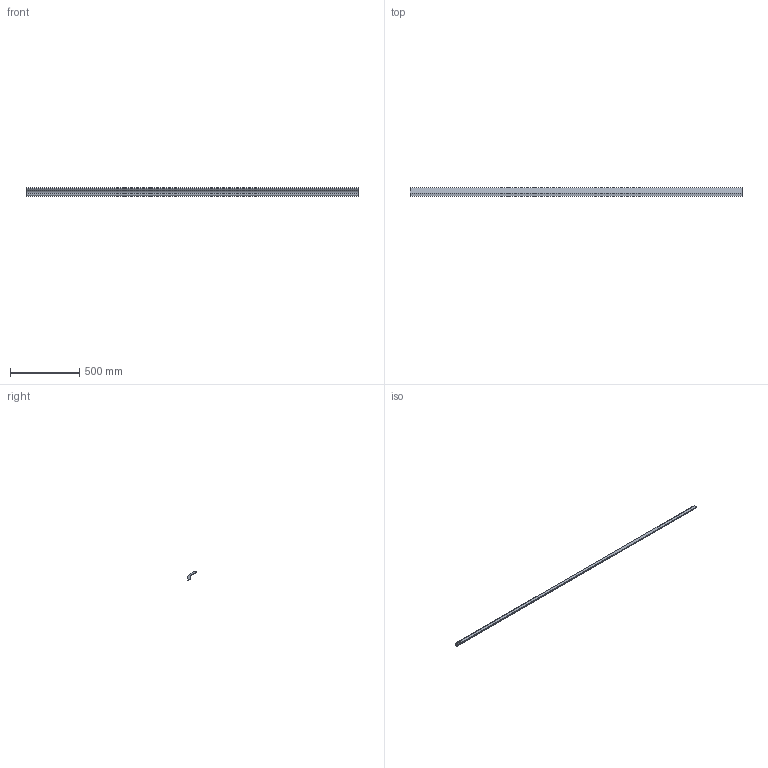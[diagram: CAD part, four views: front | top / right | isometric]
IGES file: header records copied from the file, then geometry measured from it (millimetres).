
Global section: file name: C:\Users\Wicad\Desktop\mardom listwy do wys; native system: Rhinoceros ( Mar  9 2011 ); preprocessor: Trout Lake IGES 012 Mar  9 2011; date: 120525.074852; units: centimetre
Bounding box: 2400 x 59 x 59 mm (x, y, z)
Surface area: 482791.6 mm2 (no closed solid volume)
Topology: 0 solids, 0 shells, 15 faces, 78 edges, 78 vertices
Faces by surface type: bspline 13, plane 2
